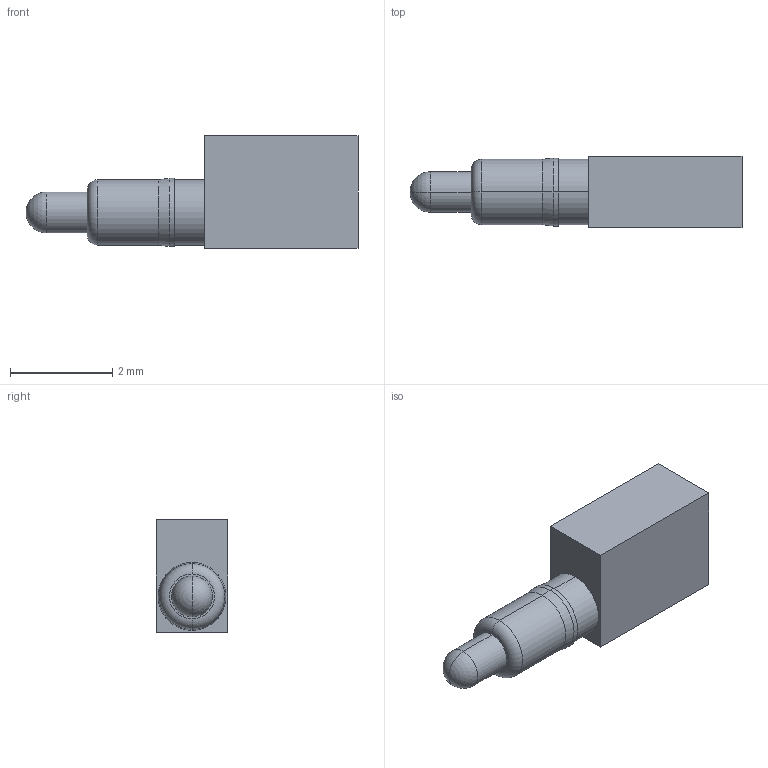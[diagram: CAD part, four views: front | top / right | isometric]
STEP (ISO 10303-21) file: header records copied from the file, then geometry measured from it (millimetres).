
FILE_DESCRIPTION((''),'2;1');
FILE_NAME('NC4390-01PA','2022-05-25T10:35:25',('USER'),(''),'CREO PARAMETRIC BY PTC INC, 2018400','CREO PARAMETRIC BY PTC INC, 2018400','');
FILE_SCHEMA(('CONFIG_CONTROL_DESIGN'));
Length unit declared in the file: millimetre
Products named in the file (1): NC4390-01PA
Bounding box: 6.5 x 1.4 x 2.2 mm (x, y, z)
Volume: 12.7 mm3; surface area: 39.3 mm2
Topology: 1 solids, 1 shells, 22 faces, 46 edges, 27 vertices
Faces by surface type: cylinder 8, plane 8, sphere 2, torus 2, cone 2
Entity records: 612 total; most frequent: DIRECTION 110, CARTESIAN_POINT 93, ORIENTED_EDGE 88, AXIS2_PLACEMENT_3D 44, EDGE_CURVE 44, VERTEX_POINT 27, EDGE_LOOP 25, VECTOR 22
